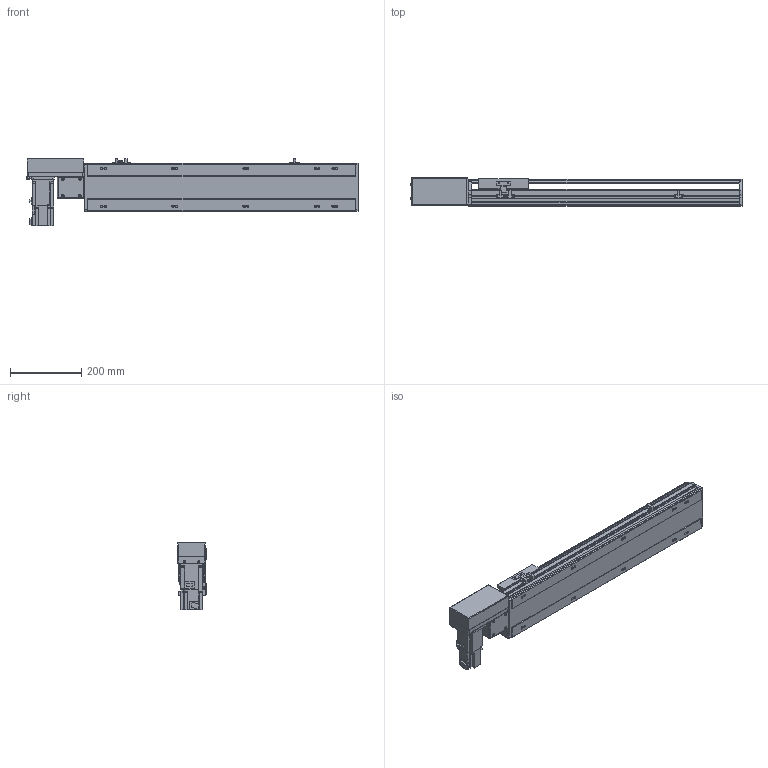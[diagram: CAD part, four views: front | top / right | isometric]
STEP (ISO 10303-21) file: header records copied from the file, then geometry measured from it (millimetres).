
FILE_DESCRIPTION( ( 'STEP AP214' ), '1' );
FILE_NAME( 'x:/temp/worker_27/temp/exporttempdir_6708_363_ggRzC/format_0/PBS140-P40-S500-R-T40-C1-N(0).stp', '2022-06-06T01:27:03', ( 'License CC BY-ND 4.0' ), ( 'CADENAS' ), ' ', 'PARTsolutions', ' ' );
FILE_SCHEMA( ( 'AUTOMOTIVE_DESIGN { 1 0 10303 214 1 1 1 1 }' ) );
Length unit declared in the file: millimetre
Products named in the file (7): PBS140-P40-S500-R-T40-C1-N(0); _PBS140-S500()_body; _PBS140T-R_motors; _T40-p1; _PBS140_sliser; _PBS140_plant; _PBS140_sensor
Assembly tree (8 placements, depth 2):
  PBS140-P40-S500-R-T40-C1-N(0)
    _PBS140-S500()_body
    _PBS140T-R_motors
    _T40-p1
    _PBS140_sliser
    _PBS140_plant
    _PBS140_sensor  x3
Bounding box: 933 x 80.5 x 189.7 mm (x, y, z)
Volume: 4415510.4 mm3; surface area: 793548.3 mm2
Topology: 8 solids, 8 shells, 1027 faces, 2716 edges, 1775 vertices
Faces by surface type: plane 674, cylinder 307, cone 36, sphere 8, torus 2
Full cylindrical faces by diameter (mm): 3.242 x4, 4 x2, 4.134 x4, 4.4 x8, 4.5 x2, 4.8 x4, 4.917 x18, 5.5 x7, 6 x2, 7 x12, 7.5 x8, 8 x12, 8.5 x4, 10.5 x10, 14 x1, 30 x2, 50 x2
Entity records: 37363 total; most frequent: CARTESIAN_POINT 5747, DIRECTION 4987, ORIENTED_EDGE 4732, EDGE_CURVE 2366, AXIS2_PLACEMENT_3D 1717, VERTEX_POINT 1629, LINE 1553, VECTOR 1553
